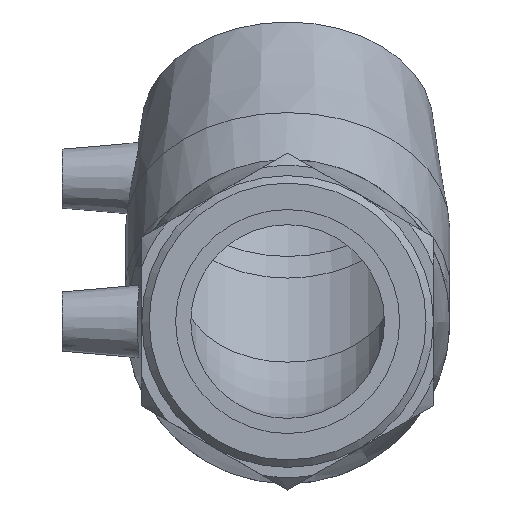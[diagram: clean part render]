
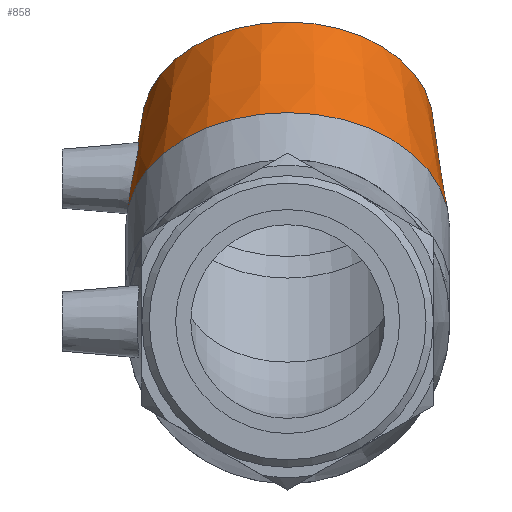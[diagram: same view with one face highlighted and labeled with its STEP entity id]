
A CAD part, left-side view. The second image highlights one B-rep face of the part: STEP entity #858.
In plain terms, the highlighted conical face has half-angle 6.409 degrees and reference radius 38.95 mm.
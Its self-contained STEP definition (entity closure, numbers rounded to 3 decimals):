
#14=B_SPLINE_CURVE_WITH_KNOTS('',3,(#1536,#1537,#1538,#1539,#1540,#1541,
#1542,#1543,#1544,#1545,#1546,#1547,#1548,#1549,#1550,#1551,#1552,#1553,
#1554,#1555,#1556,#1557,#1558,#1559,#1560,#1561,#1562,#1563,#1564,#1565,
#1566,#1567,#1568,#1569),.UNSPECIFIED.,.T.,.F.,(4,2,2,2,2,2,2,2,2,2,2,2,
2,2,2,2,4),(0.,0.337,0.674,1.013,1.352,
1.691,2.03,2.367,2.704,3.061,
3.419,3.769,4.12,4.47,4.821,
5.178,5.536),.UNSPECIFIED.);
#162=FACE_BOUND('',#316,.T.);
#163=FACE_BOUND('',#317,.T.);
#227=FACE_OUTER_BOUND('',#315,.T.);
#315=EDGE_LOOP('',(#764));
#316=EDGE_LOOP('',(#765));
#317=EDGE_LOOP('',(#766));
#377=CIRCLE('',#962,41.);
#381=CIRCLE('',#972,36.9);
#454=VERTEX_POINT('',#1531);
#455=VERTEX_POINT('',#1535);
#459=VERTEX_POINT('',#1580);
#559=EDGE_CURVE('',#454,#454,#377,.T.);
#561=EDGE_CURVE('',#455,#455,#14,.T.);
#565=EDGE_CURVE('',#459,#459,#381,.T.);
#764=ORIENTED_EDGE('',*,*,#559,.F.);
#765=ORIENTED_EDGE('',*,*,#561,.T.);
#766=ORIENTED_EDGE('',*,*,#565,.T.);
#801=CONICAL_SURFACE('',#973,38.95,6.409);
#858=ADVANCED_FACE('',(#227,#162,#163),#801,.T.);
#962=AXIS2_PLACEMENT_3D('',#1532,#1197,#1198);
#972=AXIS2_PLACEMENT_3D('',#1581,#1217,#1218);
#973=AXIS2_PLACEMENT_3D('',#1582,#1219,#1220);
#1197=DIRECTION('center_axis',(-0.707,0.,
-0.707));
#1198=DIRECTION('ref_axis',(-0.707,0.,0.707));
#1217=DIRECTION('center_axis',(-0.707,0.,
-0.707));
#1218=DIRECTION('ref_axis',(-0.707,0.,0.707));
#1219=DIRECTION('center_axis',(-0.707,0.,
-0.707));
#1220=DIRECTION('ref_axis',(0.,1.,0.));
#1531=CARTESIAN_POINT('',(23.858,41.,23.858));
#1532=CARTESIAN_POINT('Origin',(23.858,0.,
23.858));
#1535=CARTESIAN_POINT('',(42.845,37.922,29.887));
#1536=CARTESIAN_POINT('Ctrl Pts',(42.845,37.922,29.887));
#1537=CARTESIAN_POINT('Ctrl Pts',(43.614,37.8,30.697));
#1538=CARTESIAN_POINT('Ctrl Pts',(44.276,37.726,31.717));
#1539=CARTESIAN_POINT('Ctrl Pts',(45.136,37.689,33.941));
#1540=CARTESIAN_POINT('Ctrl Pts',(45.335,37.724,35.144));
#1541=CARTESIAN_POINT('Ctrl Pts',(45.294,37.821,37.395));
#1542=CARTESIAN_POINT('Ctrl Pts',(45.05,37.889,38.595));
#1543=CARTESIAN_POINT('Ctrl Pts',(44.108,37.99,40.803));
#1544=CARTESIAN_POINT('Ctrl Pts',(43.41,38.021,41.812));
#1545=CARTESIAN_POINT('Ctrl Pts',(41.812,38.021,43.41));
#1546=CARTESIAN_POINT('Ctrl Pts',(40.803,37.99,44.108));
#1547=CARTESIAN_POINT('Ctrl Pts',(38.595,37.889,45.05));
#1548=CARTESIAN_POINT('Ctrl Pts',(37.395,37.821,45.294));
#1549=CARTESIAN_POINT('Ctrl Pts',(35.144,37.724,45.335));
#1550=CARTESIAN_POINT('Ctrl Pts',(33.941,37.689,45.136));
#1551=CARTESIAN_POINT('Ctrl Pts',(31.717,37.726,44.276));
#1552=CARTESIAN_POINT('Ctrl Pts',(30.697,37.8,43.614));
#1553=CARTESIAN_POINT('Ctrl Pts',(29.027,38.051,42.03));
#1554=CARTESIAN_POINT('Ctrl Pts',(28.291,38.25,40.99));
#1555=CARTESIAN_POINT('Ctrl Pts',(27.318,38.72,38.708));
#1556=CARTESIAN_POINT('Ctrl Pts',(27.08,38.987,37.465));
#1557=CARTESIAN_POINT('Ctrl Pts',(27.078,39.445,35.15));
#1558=CARTESIAN_POINT('Ctrl Pts',(27.306,39.668,33.922));
#1559=CARTESIAN_POINT('Ctrl Pts',(28.245,39.976,31.651));
#1560=CARTESIAN_POINT('Ctrl Pts',(28.956,40.059,30.608));
#1561=CARTESIAN_POINT('Ctrl Pts',(30.608,40.059,28.956));
#1562=CARTESIAN_POINT('Ctrl Pts',(31.651,39.976,28.245));
#1563=CARTESIAN_POINT('Ctrl Pts',(33.922,39.668,27.306));
#1564=CARTESIAN_POINT('Ctrl Pts',(35.15,39.445,27.078));
#1565=CARTESIAN_POINT('Ctrl Pts',(37.465,38.987,27.08));
#1566=CARTESIAN_POINT('Ctrl Pts',(38.708,38.72,27.318));
#1567=CARTESIAN_POINT('Ctrl Pts',(40.99,38.25,28.291));
#1568=CARTESIAN_POINT('Ctrl Pts',(42.03,38.051,29.027));
#1569=CARTESIAN_POINT('Ctrl Pts',(42.845,37.922,29.887));
#1580=CARTESIAN_POINT('',(49.667,36.9,49.667));
#1581=CARTESIAN_POINT('Origin',(49.667,0.,49.667));
#1582=CARTESIAN_POINT('Origin',(36.763,0.,36.763));
